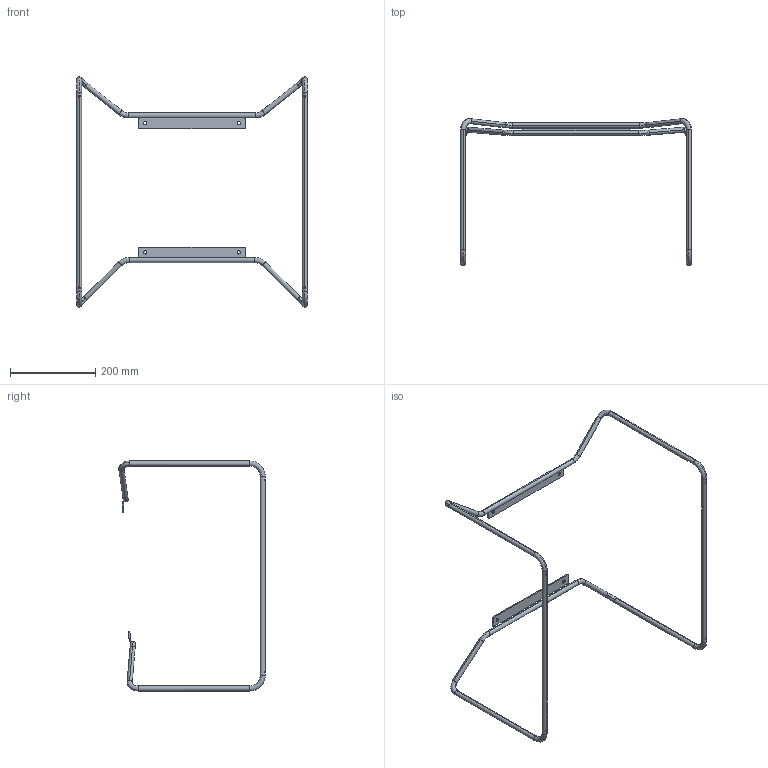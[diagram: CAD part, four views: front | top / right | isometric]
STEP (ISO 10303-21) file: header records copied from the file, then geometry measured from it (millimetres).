
FILE_DESCRIPTION (( 'STEP AP214' ), '1' );
FILE_NAME ('91049160_4.STEP', '2026-07-22T16:12:46', ( '' ), ( '' ), 'SwSTEP 2.0', 'SolidWorks 2023', '' );
FILE_SCHEMA (( 'AUTOMOTIVE_DESIGN' ));
Length unit declared in the file: millimetre
Products named in the file (1): 91049160_4
Bounding box: 543 x 344.07 x 541 mm (x, y, z)
Volume: 428500.3 mm3; surface area: 159173.7 mm2
Topology: 3 solids, 3 shells, 88 faces, 228 edges, 144 vertices
Faces by surface type: cylinder 48, torus 24, plane 16
Entity records: 3029 total; most frequent: CARTESIAN_POINT 701, DIRECTION 542, ORIENTED_EDGE 456, AXIS2_PLACEMENT_3D 233, EDGE_CURVE 228, CIRCLE 144, VERTEX_POINT 144, EDGE_LOOP 96
